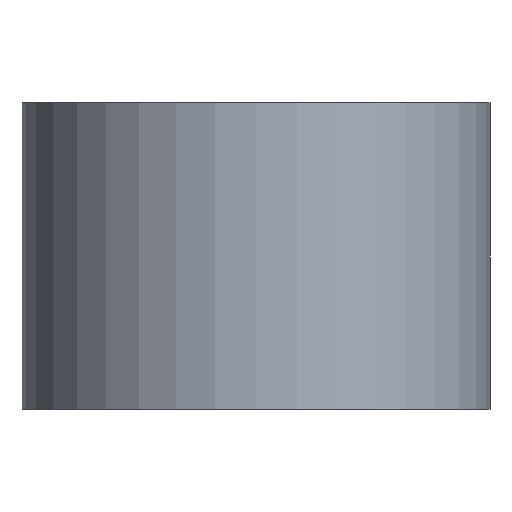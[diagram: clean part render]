
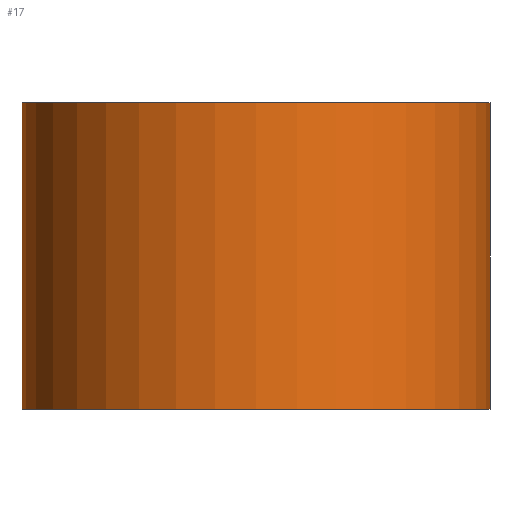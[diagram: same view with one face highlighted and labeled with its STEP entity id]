
A CAD part, front view. The second image highlights one B-rep face of the part: STEP entity #17.
In plain terms, the highlighted cylindrical face has radius 6.347 mm (diameter 12.694 mm), a full revolution.
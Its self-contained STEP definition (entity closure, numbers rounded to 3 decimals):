
#17 = ADVANCED_FACE('',(#18),#31,.T.);
#18 = FACE_BOUND('',#19,.T.);
#19 = EDGE_LOOP('',(#20,#54,#77,#104));
#20 = ORIENTED_EDGE('',*,*,#21,.F.);
#21 = EDGE_CURVE('',#22,#22,#24,.T.);
#22 = VERTEX_POINT('',#23);
#23 = CARTESIAN_POINT('',(12.697,0.,
    14.673));
#24 = SURFACE_CURVE('',#25,(#30,#42),.PCURVE_S1.);
#25 = CIRCLE('',#26,6.347);
#26 = AXIS2_PLACEMENT_3D('',#27,#28,#29);
#27 = CARTESIAN_POINT('',(6.35,0.,14.673));
#28 = DIRECTION('',(0.,0.,1.));
#29 = DIRECTION('',(1.,0.,0.));
#30 = PCURVE('',#31,#36);
#31 = CYLINDRICAL_SURFACE('',#32,6.347);
#32 = AXIS2_PLACEMENT_3D('',#33,#34,#35);
#33 = CARTESIAN_POINT('',(6.35,0.,6.348));
#34 = DIRECTION('',(0.,0.,1.));
#35 = DIRECTION('',(1.,0.,0.));
#36 = DEFINITIONAL_REPRESENTATION('',(#37),#41);
#37 = LINE('',#38,#39);
#38 = CARTESIAN_POINT('',(0.,8.325));
#39 = VECTOR('',#40,1.);
#40 = DIRECTION('',(1.,0.));
#41 = ( GEOMETRIC_REPRESENTATION_CONTEXT(2) 
PARAMETRIC_REPRESENTATION_CONTEXT() REPRESENTATION_CONTEXT('2D SPACE',''
  ) );
#42 = PCURVE('',#43,#48);
#43 = PLANE('',#44);
#44 = AXIS2_PLACEMENT_3D('',#45,#46,#47);
#45 = CARTESIAN_POINT('',(6.35,0.,14.673));
#46 = DIRECTION('',(0.,0.,1.));
#47 = DIRECTION('',(1.,0.,0.));
#48 = DEFINITIONAL_REPRESENTATION('',(#49),#53);
#49 = CIRCLE('',#50,6.347);
#50 = AXIS2_PLACEMENT_2D('',#51,#52);
#51 = CARTESIAN_POINT('',(0.,0.));
#52 = DIRECTION('',(1.,0.));
#53 = ( GEOMETRIC_REPRESENTATION_CONTEXT(2) 
PARAMETRIC_REPRESENTATION_CONTEXT() REPRESENTATION_CONTEXT('2D SPACE',''
  ) );
#54 = ORIENTED_EDGE('',*,*,#55,.F.);
#55 = EDGE_CURVE('',#56,#22,#58,.T.);
#56 = VERTEX_POINT('',#57);
#57 = CARTESIAN_POINT('',(12.697,0.,
    6.348));
#58 = SEAM_CURVE('',#59,(#63,#70),.PCURVE_S1.);
#59 = LINE('',#60,#61);
#60 = CARTESIAN_POINT('',(12.697,0.,
    6.348));
#61 = VECTOR('',#62,1.);
#62 = DIRECTION('',(0.,0.,1.));
#63 = PCURVE('',#31,#64);
#64 = DEFINITIONAL_REPRESENTATION('',(#65),#69);
#65 = LINE('',#66,#67);
#66 = CARTESIAN_POINT('',(6.283,-0.));
#67 = VECTOR('',#68,1.);
#68 = DIRECTION('',(0.,1.));
#69 = ( GEOMETRIC_REPRESENTATION_CONTEXT(2) 
PARAMETRIC_REPRESENTATION_CONTEXT() REPRESENTATION_CONTEXT('2D SPACE',''
  ) );
#70 = PCURVE('',#31,#71);
#71 = DEFINITIONAL_REPRESENTATION('',(#72),#76);
#72 = LINE('',#73,#74);
#73 = CARTESIAN_POINT('',(0.,-0.));
#74 = VECTOR('',#75,1.);
#75 = DIRECTION('',(0.,1.));
#76 = ( GEOMETRIC_REPRESENTATION_CONTEXT(2) 
PARAMETRIC_REPRESENTATION_CONTEXT() REPRESENTATION_CONTEXT('2D SPACE',''
  ) );
#77 = ORIENTED_EDGE('',*,*,#78,.T.);
#78 = EDGE_CURVE('',#56,#56,#79,.T.);
#79 = SURFACE_CURVE('',#80,(#85,#92),.PCURVE_S1.);
#80 = CIRCLE('',#81,6.347);
#81 = AXIS2_PLACEMENT_3D('',#82,#83,#84);
#82 = CARTESIAN_POINT('',(6.35,0.,6.348));
#83 = DIRECTION('',(0.,0.,1.));
#84 = DIRECTION('',(1.,0.,0.));
#85 = PCURVE('',#31,#86);
#86 = DEFINITIONAL_REPRESENTATION('',(#87),#91);
#87 = LINE('',#88,#89);
#88 = CARTESIAN_POINT('',(0.,0.));
#89 = VECTOR('',#90,1.);
#90 = DIRECTION('',(1.,0.));
#91 = ( GEOMETRIC_REPRESENTATION_CONTEXT(2) 
PARAMETRIC_REPRESENTATION_CONTEXT() REPRESENTATION_CONTEXT('2D SPACE',''
  ) );
#92 = PCURVE('',#93,#98);
#93 = PLANE('',#94);
#94 = AXIS2_PLACEMENT_3D('',#95,#96,#97);
#95 = CARTESIAN_POINT('',(6.35,0.,6.348));
#96 = DIRECTION('',(0.,0.,1.));
#97 = DIRECTION('',(1.,0.,0.));
#98 = DEFINITIONAL_REPRESENTATION('',(#99),#103);
#99 = CIRCLE('',#100,6.347);
#100 = AXIS2_PLACEMENT_2D('',#101,#102);
#101 = CARTESIAN_POINT('',(0.,0.));
#102 = DIRECTION('',(1.,0.));
#103 = ( GEOMETRIC_REPRESENTATION_CONTEXT(2) 
PARAMETRIC_REPRESENTATION_CONTEXT() REPRESENTATION_CONTEXT('2D SPACE',''
  ) );
#104 = ORIENTED_EDGE('',*,*,#55,.T.);
